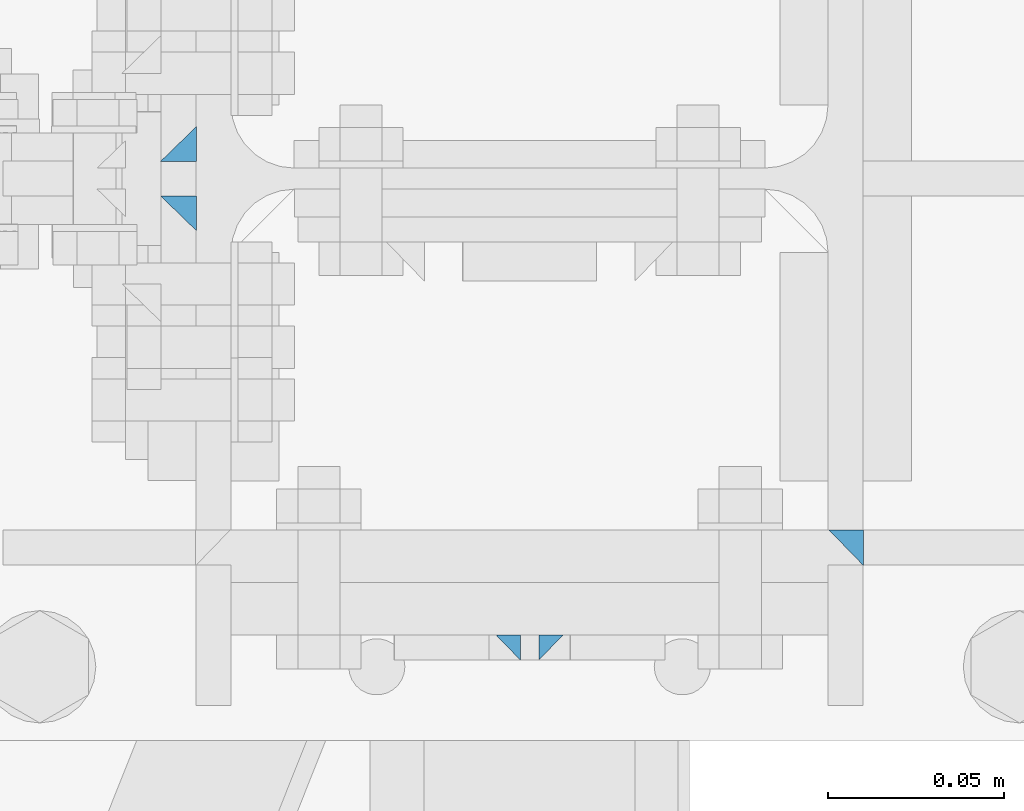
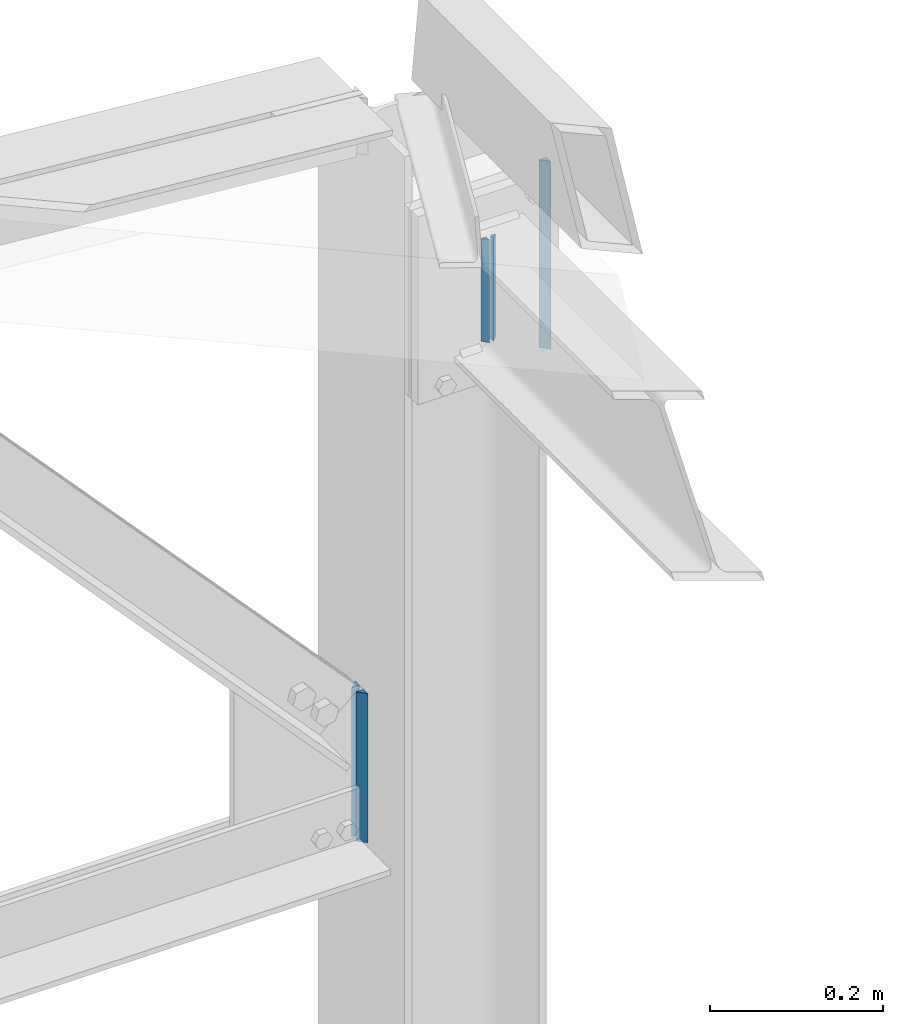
# One storey, part 54 of 251: 7 fasteners.
"""IFC4 building model written with IfcOpenShell, lengths in metres."""

from ifc_helpers import new_model, si_unit, frame, origin_with_axes, place, context, project, spatial, polyline, outline, extrude, type_object, element, save


model = new_model("IFC4")

# Units and contexts
model_context = context("Model", 3, precision=1e-05, world=origin_with_axes())
ifc_project = project(units=[si_unit("LENGTHUNIT", "METRE"), si_unit("AREAUNIT", "SQUARE_METRE"), si_unit("VOLUMEUNIT", "CUBIC_METRE"), si_unit("MASSUNIT", "GRAM", prefix="KILO"), si_unit("TIMEUNIT", "SECOND"), si_unit("PLANEANGLEUNIT", "RADIAN"), si_unit("SOLIDANGLEUNIT", "STERADIAN"), si_unit("THERMODYNAMICTEMPERATUREUNIT", "DEGREE_CELSIUS")], contexts=[model_context])

# Site, building, storey
placement_1 = place(None, origin_with_axes())
site = spatial("IfcSite", under=ifc_project, at=placement_1, Name="Italia", CompositionType="ELEMENT")
building = spatial("IfcBuilding", under=site, at=placement_1, Name="Deposito", CompositionType="ELEMENT")
storey = spatial("IfcBuildingStorey", under=building, at=placement_1, Name="Storey 0", CompositionType="ELEMENT", Elevation=0.0)

# Fasteners
fastener_type_1 = type_object("IfcFastenerType", Name="Collegamenti -064_-065 -065_-064 -065_-066 -066_-065 -066_-067 -067_-066 -067_-068 -068_-067", PredefinedType="WELD")
placement_2 = place(placement_1, origin_with_axes())
fastener_1_placement = place(placement_2, origin_with_axes())
element("IfcFastener", 1, at=fastener_1_placement, inside=storey, type_object=fastener_type_1, Name="Collegamenti -064_-065 -065_-064 -065_-066 -066_-065 -066_-067 -067_-066 -067_-068 -068_-067", context=model_context, shape_type="SweptSolid", body=[
    extrude(outline(polyline([(0.0, 0.0), (-0.00717354, 0.00695801), (0.0, 0.00695801), (0.0, 0.0)])), frame((20.0096, 19.8701, 5.72695), z_axis=(0.0, 0.0, 1.0), x_axis=(0.0, 1.0, 0.0)), (0.0, 0.0, 1.0), 0.146099),
])
fastener_type_2 = type_object("IfcFastenerType", Name="Collegamenti -064_-065 -065_-064 -065_-066 -066_-065 -066_-067 -067_-066 -067_-068 -068_-067", PredefinedType="WELD")
fastener_2_placement = place(placement_2, origin_with_axes())
element("IfcFastener", 2, at=fastener_2_placement, inside=storey, type_object=fastener_type_2, Name="Collegamenti -064_-065 -065_-064 -065_-066 -066_-065 -066_-067 -067_-066 -067_-068 -068_-067", context=model_context, shape_type="SweptSolid", body=[
    extrude(outline(polyline([(0.0, 0.0), (-0.00717354, 0.00695801), (0.0, 0.00695801), (0.0, 0.0)])), frame((19.9904, 19.8701, 5.87305), z_axis=(0.0, 0.0, -1.0), x_axis=(0.0, 1.0, 0.0)), (0.0, 0.0, 1.0), 0.146099),
])
fastener_type_3 = type_object("IfcFastenerType", Name="Collegamenti -064_-065 -065_-064 -065_-066 -066_-065 -066_-067 -067_-066 -067_-068 -068_-067", PredefinedType="WELD")
fastener_3_placement = place(placement_2, origin_with_axes())
element("IfcFastener", 3, at=fastener_3_placement, inside=storey, type_object=fastener_type_3, Name="Collegamenti -064_-065 -065_-064 -065_-066 -066_-065 -066_-067 -067_-066 -067_-068 -068_-067", context=model_context, shape_type="SweptSolid", body=[
    extrude(outline(polyline([(0.0, 0.0), (-0.00717354, 0.00695801), (0.0, 0.00695801), (0.0, 0.0)])), frame((20.0096, 19.8701, 5.72695), z_axis=(0.0, 0.0, 1.0), x_axis=(0.0, 1.0, 0.0)), (0.0, 0.0, 1.0), 0.146099),
])
fastener_type_4 = type_object("IfcFastenerType", Name="Collegamenti -064_-065 -065_-064 -065_-066 -066_-065 -066_-067 -067_-066 -067_-068 -068_-067", PredefinedType="WELD")
fastener_4_placement = place(placement_2, origin_with_axes())
element("IfcFastener", 4, at=fastener_4_placement, inside=storey, type_object=fastener_type_4, Name="Collegamenti -064_-065 -065_-064 -065_-066 -066_-065 -066_-067 -067_-066 -067_-068 -068_-067", context=model_context, shape_type="SweptSolid", body=[
    extrude(outline(polyline([(0.0, 0.0), (-0.00717354, 0.00695801), (0.0, 0.00695801), (0.0, 0.0)])), frame((19.9904, 19.8701, 5.87305), z_axis=(0.0, 0.0, -1.0), x_axis=(0.0, 1.0, 0.0)), (0.0, 0.0, 1.0), 0.146099),
])
fastener_type_5 = type_object("IfcFastenerType", Name="Collegamenti -064_-065 -065_-064 -065_-066 -066_-065 -066_-067 -067_-066 -067_-068 -068_-067", PredefinedType="WELD")
fastener_5_placement = place(placement_2, origin_with_axes())
element("IfcFastener", 5, at=fastener_5_placement, inside=storey, type_object=fastener_type_5, Name="Collegamenti -064_-065 -065_-064 -065_-066 -066_-065 -066_-067 -067_-066 -067_-068 -068_-067", context=model_context, shape_type="SweptSolid", body=[
    extrude(outline(polyline([(0.0, 0.0), (-0.0101719, 0.00986862), (0.0, 0.00986862), (0.0, 0.0)])), frame((20.0852, 19.9, 5.93305), z_axis=(0.0, 0.0, -1.0), x_axis=(0.0, 1.0, 0.0)), (0.0, 0.0, 1.0), 0.2661),
])
fastener_type_6 = type_object("IfcFastenerType", Name="Reticolare 6", PredefinedType="WELD")
fastener_6_placement = place(placement_2, origin_with_axes())
element("IfcFastener", 6, at=fastener_6_placement, inside=storey, type_object=fastener_type_6, Name="Reticolare 6", context=model_context, shape_type="SweptSolid", body=[
    extrude(outline(polyline([(0.0, 0.0), (-0.00986862, -0.0101738), (-0.00986862, 0.0), (0.0, 0.0)])), frame((19.9051, 20.0148, 5.18881), z_axis=(0.0, 0.0, -1.0), x_axis=(0.0, 1.0, 0.0)), (0.0, 0.0, 1.0), 0.211377),
])
fastener_type_7 = type_object("IfcFastenerType", Name="Reticolare 6", PredefinedType="WELD")
fastener_7_placement = place(placement_2, origin_with_axes())
element("IfcFastener", 7, at=fastener_7_placement, inside=storey, type_object=fastener_type_7, Name="Reticolare 6", context=model_context, shape_type="SweptSolid", body=[
    extrude(outline(polyline([(0.0, 0.0), (0.00986862, 0.0101738), (0.00986862, 0.0), (0.0, 0.0)])), frame((19.9051, 19.9852, 4.97743), z_axis=(0.0, 0.0, 1.0), x_axis=(0.0, 1.0, 0.0)), (0.0, 0.0, 1.0), 0.211377),
])

save(model, "model.ifc")
